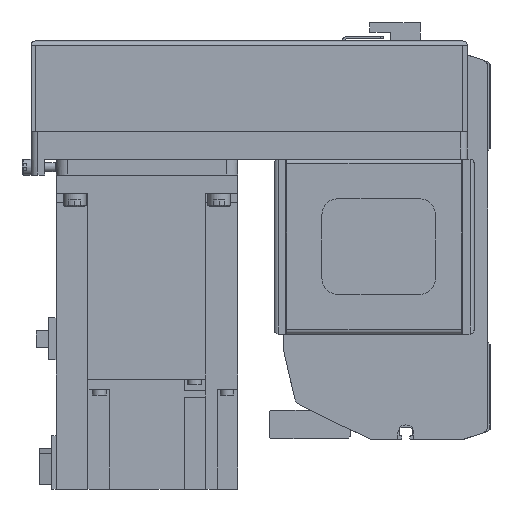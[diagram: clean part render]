
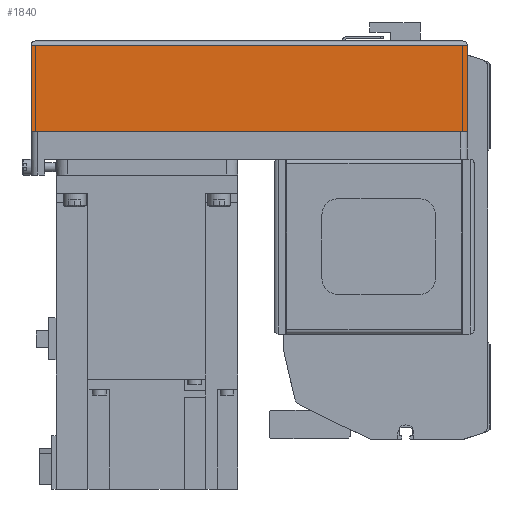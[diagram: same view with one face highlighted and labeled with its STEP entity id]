
A CAD part, left-side view. The second image highlights one B-rep face of the part: STEP entity #1840.
In plain terms, the highlighted planar face has unit normal (-1, 0, 0) as drawn and (0, 1, 0) by its records, which use the part's own axes.
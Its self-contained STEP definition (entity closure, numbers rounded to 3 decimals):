
#1840 = ADVANCED_FACE( '', ( #4320 ), #4321, .T. );
#4320 = FACE_OUTER_BOUND( '', #7504, .T. );
#4321 = PLANE( '', #7505 );
#7504 = EDGE_LOOP( '', ( #12662, #12663, #12664, #12665 ) );
#7505 = AXIS2_PLACEMENT_3D( '', #12666, #12667, #12668 );
#12662 = ORIENTED_EDGE( '', *, *, #20049, .F. );
#12663 = ORIENTED_EDGE( '', *, *, #20050, .F. );
#12664 = ORIENTED_EDGE( '', *, *, #20051, .T. );
#12665 = ORIENTED_EDGE( '', *, *, #20052, .T. );
#12666 = CARTESIAN_POINT( '', ( -192., 40., -50. ) );
#12667 = DIRECTION( '', ( 0., 1., 0. ) );
#12668 = DIRECTION( '', ( 0., 0., 1. ) );
#20049 = EDGE_CURVE( '', #24680, #24681, #24682, .T. );
#20050 = EDGE_CURVE( '', #24683, #24680, #24684, .T. );
#20051 = EDGE_CURVE( '', #24683, #24685, #24686, .T. );
#20052 = EDGE_CURVE( '', #24685, #24681, #24687, .T. );
#24680 = VERTEX_POINT( '', #31036 );
#24681 = VERTEX_POINT( '', #31037 );
#24682 = LINE( '', #31038, #31039 );
#24683 = VERTEX_POINT( '', #31040 );
#24684 = LINE( '', #31041, #31042 );
#24685 = VERTEX_POINT( '', #31043 );
#24686 = LINE( '', #31044, #31045 );
#24687 = LINE( '', #31046, #31047 );
#31036 = CARTESIAN_POINT( '', ( 0., 40., -50. ) );
#31037 = CARTESIAN_POINT( '', ( 0., 40., -12.1 ) );
#31038 = CARTESIAN_POINT( '', ( 0., 40., -50. ) );
#31039 = VECTOR( '', #36356, 1000. );
#31040 = CARTESIAN_POINT( '', ( -192., 40., -50. ) );
#31041 = CARTESIAN_POINT( '', ( -192., 40., -50. ) );
#31042 = VECTOR( '', #36357, 1000. );
#31043 = CARTESIAN_POINT( '', ( -192., 40., -12.1 ) );
#31044 = CARTESIAN_POINT( '', ( -192., 40., -50. ) );
#31045 = VECTOR( '', #36358, 1000. );
#31046 = CARTESIAN_POINT( '', ( -192., 40., -12.1 ) );
#31047 = VECTOR( '', #36359, 1000. );
#36356 = DIRECTION( '', ( 0., 0., 1. ) );
#36357 = DIRECTION( '', ( 1., 0., 0. ) );
#36358 = DIRECTION( '', ( 0., 0., 1. ) );
#36359 = DIRECTION( '', ( 1., 0., 0. ) );
